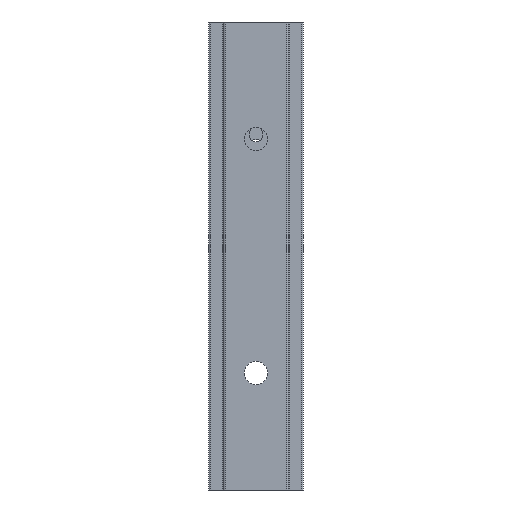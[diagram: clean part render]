
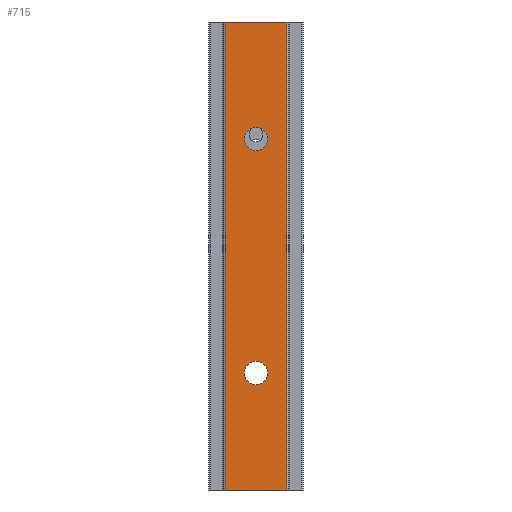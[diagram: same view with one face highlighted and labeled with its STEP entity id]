
A CAD part, front view. The second image highlights one B-rep face of the part: STEP entity #715.
In plain terms, the highlighted planar face has unit normal (0, -1, 0).
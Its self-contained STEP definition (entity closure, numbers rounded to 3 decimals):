
#181 = DIRECTION ( 'NONE',  ( 0., 1., 0. ) ) ;
#305 = VECTOR ( 'NONE', #12275, 1000. ) ;
#460 = FACE_OUTER_BOUND ( 'NONE', #547, .T. ) ;
#531 = DIRECTION ( 'NONE',  ( 0., 0., 1. ) ) ;
#547 = EDGE_LOOP ( 'NONE', ( #11429, #6766, #5501, #4638 ) ) ;
#628 = DIRECTION ( 'NONE',  ( 0., 0., 1. ) ) ;
#696 = EDGE_CURVE ( 'NONE', #6256, #3183, #8296, .T. ) ;
#715 = ADVANCED_FACE ( 'NONE', ( #5720, #460, #11592 ), #4425, .T. ) ;
#855 = CARTESIAN_POINT ( 'NONE',  ( -6.6, 0., -100. ) ) ;
#1744 = ORIENTED_EDGE ( 'NONE', *, *, #696, .T. ) ;
#1749 = VERTEX_POINT ( 'NONE', #12462 ) ;
#1767 = AXIS2_PLACEMENT_3D ( 'NONE', #5168, #9252, #11052 ) ;
#1851 = VERTEX_POINT ( 'NONE', #2563 ) ;
#1900 = ORIENTED_EDGE ( 'NONE', *, *, #4235, .T. ) ;
#1991 = AXIS2_PLACEMENT_3D ( 'NONE', #3245, #181, #11191 ) ;
#2012 = VECTOR ( 'NONE', #628, 1000. ) ;
#2313 = ORIENTED_EDGE ( 'NONE', *, *, #9967, .T. ) ;
#2484 = CARTESIAN_POINT ( 'NONE',  ( -10.075, 0., 0. ) ) ;
#2544 = DIRECTION ( 'NONE',  ( 0., 1., 0. ) ) ;
#2548 = DIRECTION ( 'NONE',  ( 0., 1., 0. ) ) ;
#2563 = CARTESIAN_POINT ( 'NONE',  ( 6.6, 0., -100. ) ) ;
#2607 = CIRCLE ( 'NONE', #1991, 2.5 ) ;
#2669 = EDGE_LOOP ( 'NONE', ( #5468, #1900 ) ) ;
#2674 = CARTESIAN_POINT ( 'NONE',  ( 0., 0., -75. ) ) ;
#2814 = CIRCLE ( 'NONE', #1767, 2.5 ) ;
#3183 = VERTEX_POINT ( 'NONE', #5674 ) ;
#3245 = CARTESIAN_POINT ( 'NONE',  ( 0., 0., -25. ) ) ;
#3582 = CARTESIAN_POINT ( 'NONE',  ( -10.075, 0., -100. ) ) ;
#3986 = CIRCLE ( 'NONE', #4807, 2.5 ) ;
#4194 = VECTOR ( 'NONE', #7218, 1000. ) ;
#4235 = EDGE_CURVE ( 'NONE', #9382, #11416, #2607, .T. ) ;
#4245 = DIRECTION ( 'NONE',  ( 0., 0., -1. ) ) ;
#4388 = EDGE_CURVE ( 'NONE', #1851, #5137, #10425, .T. ) ;
#4425 = PLANE ( 'NONE',  #7883 ) ;
#4550 = DIRECTION ( 'NONE',  ( 0., -1., 0. ) ) ;
#4638 = ORIENTED_EDGE ( 'NONE', *, *, #4388, .T. ) ;
#4807 = AXIS2_PLACEMENT_3D ( 'NONE', #6444, #2548, #531 ) ;
#5137 = VERTEX_POINT ( 'NONE', #5666 ) ;
#5168 = CARTESIAN_POINT ( 'NONE',  ( 0., 0., -25. ) ) ;
#5342 = LINE ( 'NONE', #8385, #12444 ) ;
#5468 = ORIENTED_EDGE ( 'NONE', *, *, #11189, .T. ) ;
#5501 = ORIENTED_EDGE ( 'NONE', *, *, #11139, .T. ) ;
#5666 = CARTESIAN_POINT ( 'NONE',  ( 6.6, 0., 0. ) ) ;
#5674 = CARTESIAN_POINT ( 'NONE',  ( 0., 0., -72.5 ) ) ;
#5720 = FACE_BOUND ( 'NONE', #7491, .T. ) ;
#6256 = VERTEX_POINT ( 'NONE', #10224 ) ;
#6444 = CARTESIAN_POINT ( 'NONE',  ( 0., 0., -75. ) ) ;
#6553 = CARTESIAN_POINT ( 'NONE',  ( 0., 0., -27.5 ) ) ;
#6766 = ORIENTED_EDGE ( 'NONE', *, *, #10018, .T. ) ;
#7218 = DIRECTION ( 'NONE',  ( 1., 0., 0. ) ) ;
#7491 = EDGE_LOOP ( 'NONE', ( #2313, #1744 ) ) ;
#7883 = AXIS2_PLACEMENT_3D ( 'NONE', #3582, #4550, #8378 ) ;
#8146 = LINE ( 'NONE', #9052, #305 ) ;
#8193 = LINE ( 'NONE', #2484, #4194 ) ;
#8296 = CIRCLE ( 'NONE', #11586, 2.5 ) ;
#8378 = DIRECTION ( 'NONE',  ( 0., 0., -1. ) ) ;
#8385 = CARTESIAN_POINT ( 'NONE',  ( -6.6, 0., -100. ) ) ;
#9052 = CARTESIAN_POINT ( 'NONE',  ( -10.075, 0., -100. ) ) ;
#9252 = DIRECTION ( 'NONE',  ( 0., 1., 0. ) ) ;
#9382 = VERTEX_POINT ( 'NONE', #6553 ) ;
#9517 = CARTESIAN_POINT ( 'NONE',  ( 6.6, 0., 0. ) ) ;
#9536 = DIRECTION ( 'NONE',  ( 0., 0., 1. ) ) ;
#9967 = EDGE_CURVE ( 'NONE', #3183, #6256, #3986, .T. ) ;
#10018 = EDGE_CURVE ( 'NONE', #1749, #11325, #5342, .T. ) ;
#10019 = EDGE_CURVE ( 'NONE', #1749, #5137, #8193, .T. ) ;
#10224 = CARTESIAN_POINT ( 'NONE',  ( 0., 0., -77.5 ) ) ;
#10407 = CARTESIAN_POINT ( 'NONE',  ( 0., 0., -22.5 ) ) ;
#10425 = LINE ( 'NONE', #9517, #2012 ) ;
#11052 = DIRECTION ( 'NONE',  ( 0., 0., 1. ) ) ;
#11139 = EDGE_CURVE ( 'NONE', #11325, #1851, #8146, .T. ) ;
#11189 = EDGE_CURVE ( 'NONE', #11416, #9382, #2814, .T. ) ;
#11191 = DIRECTION ( 'NONE',  ( 0., 0., 1. ) ) ;
#11325 = VERTEX_POINT ( 'NONE', #855 ) ;
#11416 = VERTEX_POINT ( 'NONE', #10407 ) ;
#11429 = ORIENTED_EDGE ( 'NONE', *, *, #10019, .F. ) ;
#11586 = AXIS2_PLACEMENT_3D ( 'NONE', #2674, #2544, #9536 ) ;
#11592 = FACE_BOUND ( 'NONE', #2669, .T. ) ;
#12275 = DIRECTION ( 'NONE',  ( 1., 0., 0. ) ) ;
#12444 = VECTOR ( 'NONE', #4245, 1000. ) ;
#12462 = CARTESIAN_POINT ( 'NONE',  ( -6.6, 0., 0. ) ) ;
